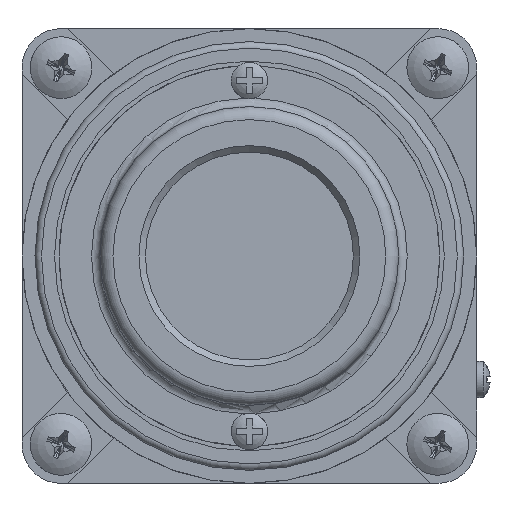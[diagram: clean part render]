
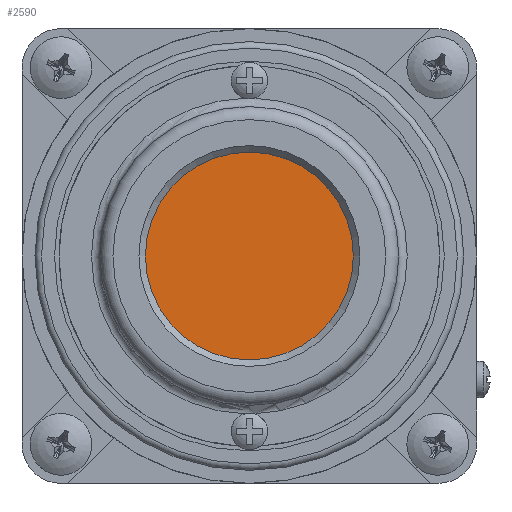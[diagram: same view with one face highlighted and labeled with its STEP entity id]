
A CAD part, left-side view. The second image highlights one B-rep face of the part: STEP entity #2590.
In plain terms, the highlighted planar face has unit normal (-1, 0, 0).
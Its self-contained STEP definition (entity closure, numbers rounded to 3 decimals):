
#1889=FACE_OUTER_BOUND('',#3791,.T.);
#2092=PLANE('',#8239);
#2590=ADVANCED_FACE('',(#1889),#2092,.T.);
#3791=EDGE_LOOP('',(#5405));
#5405=ORIENTED_EDGE('',*,*,#7066,.F.);
#6204=VERTEX_POINT('',#13148);
#7066=EDGE_CURVE('',#6204,#6204,#7444,.T.);
#7444=CIRCLE('',#8238,16.);
#8238=AXIS2_PLACEMENT_3D('',#13147,#9649,#9650);
#8239=AXIS2_PLACEMENT_3D('',#13149,#9651,#9652);
#9649=DIRECTION('',(1.,0.,0.));
#9650=DIRECTION('',(0.,0.,-1.));
#9651=DIRECTION('',(-1.,0.,0.));
#9652=DIRECTION('',(0.,0.,-1.));
#13147=CARTESIAN_POINT('',(-90.,0.,0.));
#13148=CARTESIAN_POINT('',(-90.,0.,-16.));
#13149=CARTESIAN_POINT('',(-90.,0.,0.));
